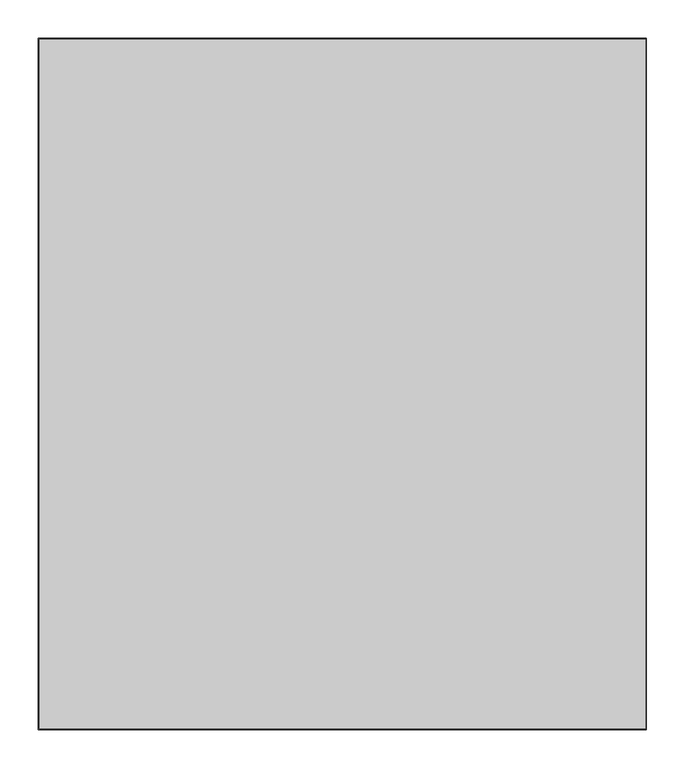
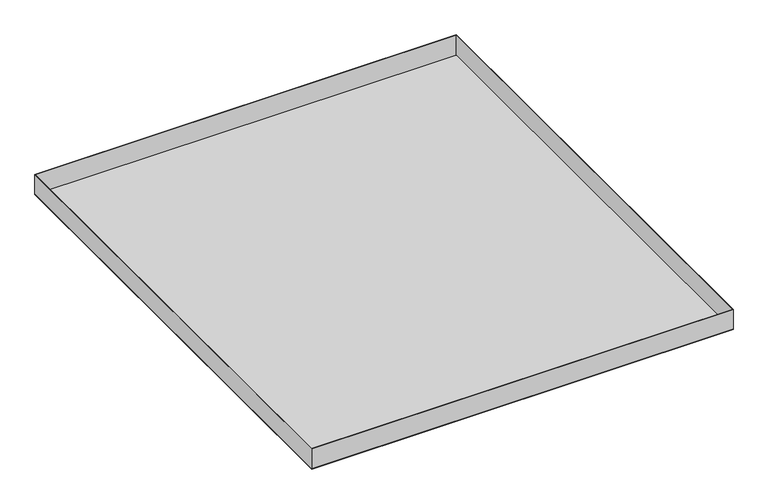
"""IFC4 building model written with IfcOpenShell, lengths in millimetres: proxy geometry, durlum_S7KS_RHOMBOS_panel : durlum_S7KS_RHOMBOS_panel_wall_corner."""

from ifc_helpers import new_model, si_unit, frame, origin, origin_with_axes, place, context, project, spatial, polyline, outline, extrude, source, transform, mapped, element, save


def generic_models_81118a57(model_context):
    return source(origin(), model_context, "Body", "SweptSolid", [
        extrude(outline(polyline([(395.0, 449.0), (395.0, -449.0), (-395.0, -449.0), (-395.0, 449.0), (395.0, 449.0)]), holes=[polyline([(394.0, 448.0), (-394.0, 448.0), (-394.0, -448.0), (394.0, -448.0), (394.0, 448.0)])]), frame((0.0, 0.0, 1.0), z_axis=(0.0, 0.0, 1.0), x_axis=(1.0, 0.0, 0.0)), (0.0, 0.0, 1.0), 39.0),
        extrude(outline(polyline([(395.0, 449.0), (395.0, -449.0), (-395.0, -449.0), (-395.0, 449.0), (395.0, 449.0)])), origin_with_axes(), (0.0, 0.0, 1.0), 1.0),
    ])


if __name__ == "__main__":
    model = new_model("IFC4")
    model_context = context("Model", 3, world=origin())
    ifc_project = project(units=[si_unit("LENGTHUNIT", "METRE", prefix="MILLI")], contexts=[model_context])
    site = spatial("IfcSite", under=ifc_project)
    building = spatial("IfcBuilding", under=site)
    placement = place(None, origin())
    generic_models_shape = generic_models_81118a57(model_context)
    element("IfcBuildingElementProxy", 1, Name="durlum_S7KS_RHOMBOS_panel : durlum_S7KS_RHOMBOS_panel_wall_corner", ObjectType="durlum_S7KS_RHOMBOS_panel : durlum_S7KS_RHOMBOS_panel_wall_corner", at=placement, inside=building, context=model_context, shape_type="MappedRepresentation", body=[
        mapped(generic_models_shape, transform((0.0, 0.0, 0.0), x_axis=(1.0, 0.0, 0.0), y_axis=(0.0, 1.0, 0.0), z_axis=(0.0, 0.0, 1.0))),
    ])
    save(model, "model.ifc")
